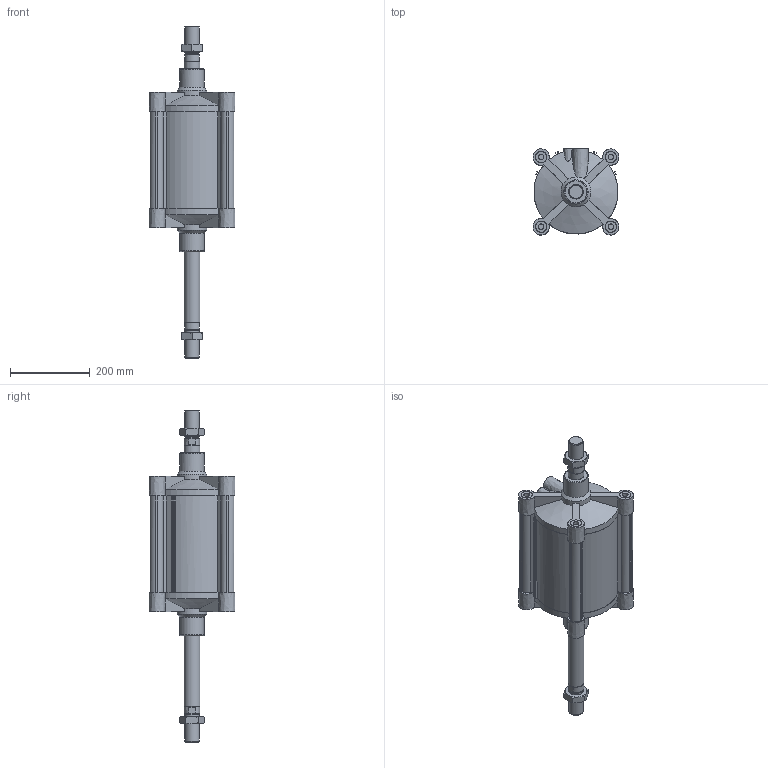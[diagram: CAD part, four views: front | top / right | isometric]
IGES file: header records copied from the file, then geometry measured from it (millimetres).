
Global section: file name: 139#_200_0160_02; native system: Autodesk Inventor 2014; preprocessor: unknown; author: F. Piloni; organization: Pneumax S.p.A.; date: 20151120.143212; units: millimetre
Bounding box: 216 x 216 x 834 mm (x, y, z)
Volume: 7737949 mm3; surface area: 1035437.9 mm2
Topology: 6 solids, 6 shells, 324 faces, 844 edges, 567 vertices
Faces by surface type: bspline 324
